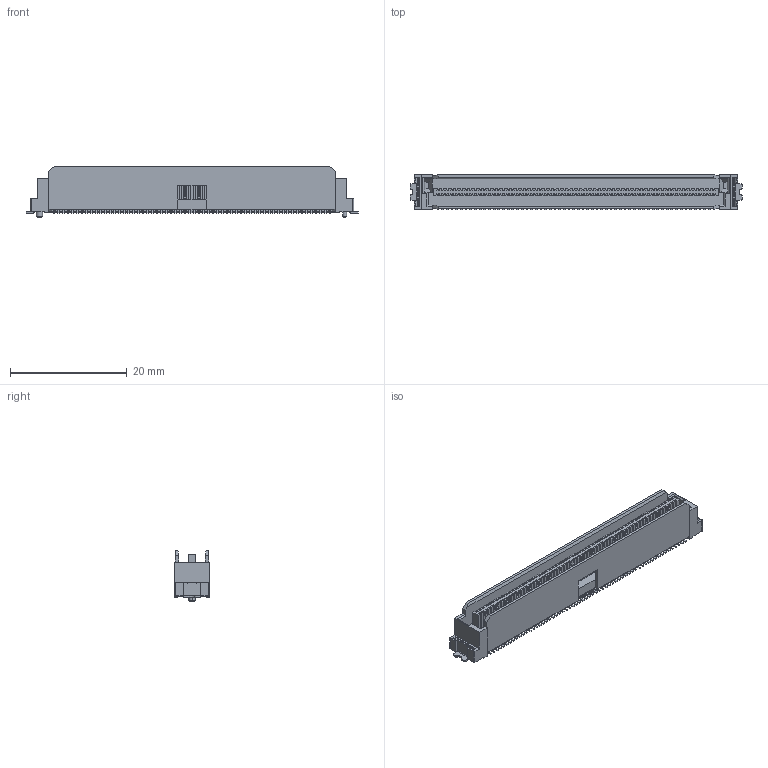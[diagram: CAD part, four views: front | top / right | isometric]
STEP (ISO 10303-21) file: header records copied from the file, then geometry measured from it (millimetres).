
FILE_DESCRIPTION(('CATIA V5 STEP Exchange'),'2;1');
FILE_NAME('F:\黄富鸿\板对板\PBB08D\公座\H8\HC-PBB08D-1-120-M-H8-XX-R-P-06 (BTB0.8 单槽 D型公座 立贴 带柱 编带)-HCTL.stp','2026-01-30T09:53:02+00:00',('none'),('none'),'CATIA Version 5 Release 20 GA (IN-10)','CATIA V5 STEP AP203','none');
FILE_SCHEMA(('CONFIG_CONTROL_DESIGN'));
Products named in the file (1): Part1
Bounding box: 56.8 x 6 x 8.75 mm (x, y, z)
Volume: 1249.4 mm3; surface area: 5209.1 mm2
Topology: 123 solids, 123 shells, 6317 faces, 19242 edges, 12812 vertices
Faces by surface type: plane 3877, cylinder 2436, cone 4
Entity records: 186142 total; most frequent: ORIENTED_EDGE 38484, CARTESIAN_POINT 33360, DIRECTION 21756, EDGE_CURVE 19242, VECTOR 14334, LINE 14334, VERTEX_POINT 12812, EDGE_LOOP 6440
